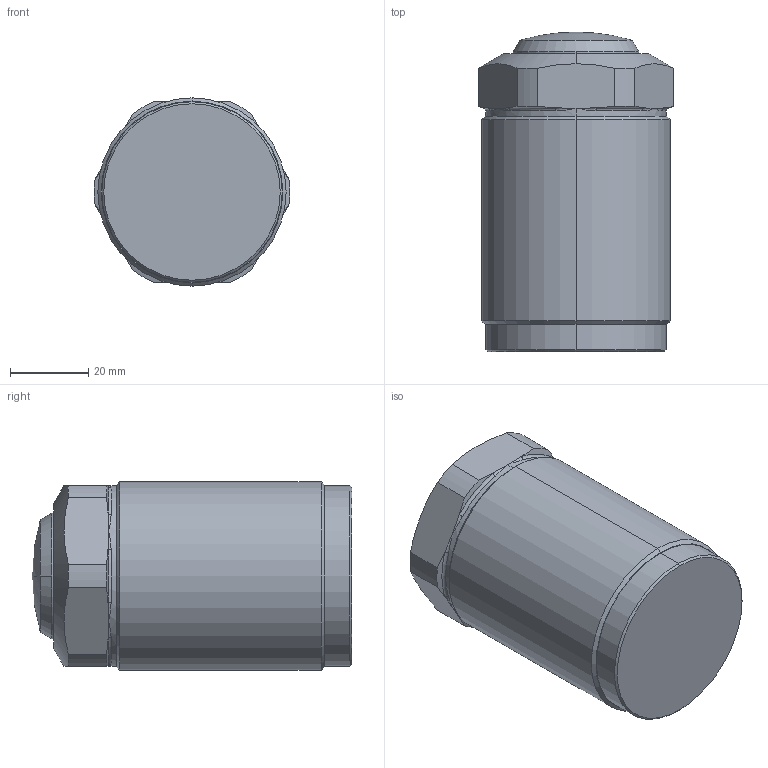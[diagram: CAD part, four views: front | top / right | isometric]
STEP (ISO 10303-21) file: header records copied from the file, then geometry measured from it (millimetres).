
FILE_DESCRIPTION((' '),'2;1');
FILE_NAME( 'CMC20-20R.x_t.stp', '2024-08-27T13:58:40', (' '), ('--- Datakit www.datakit.com---'), ' Datakit CrossCadWare V2024.1 Dec 21 2023', 'Mastercam 2025', ' ');
FILE_SCHEMA(('AUTOMOTIVE_DESIGN { 1 0 10303 214 1 1 1 1 }'));
Length unit declared in the file: millimetre
Products named in the file (1): CMC20-20R
Bounding box: 49.96 x 81.5 x 48 mm (x, y, z)
Volume: 137943.7 mm3; surface area: 20581.2 mm2
Topology: 2 solids, 2 shells, 64 faces, 158 edges, 87 vertices
Faces by surface type: cylinder 16, cone 16, plane 12, bspline 12, torus 6, sphere 2
Entity records: 3834 total; most frequent: CARTESIAN_POINT 2452, ORIENTED_EDGE 288, DIRECTION 274, EDGE_CURVE 144, AXIS2_PLACEMENT_3D 121, VERTEX_POINT 87, CIRCLE 68, EDGE_LOOP 67
